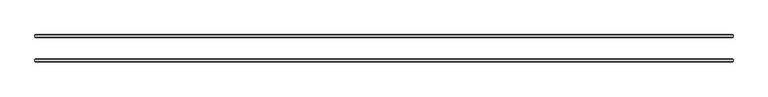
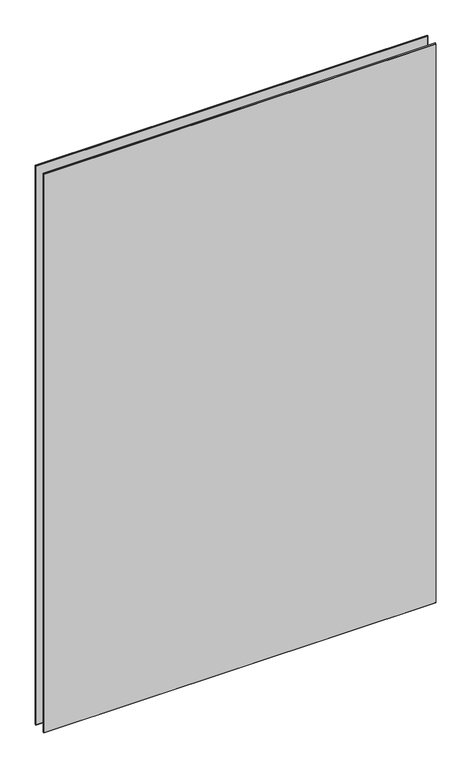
"""IFC4 building model written with IfcOpenShell, lengths in millimetres: plate geometry, 3-AMG-2-Панель двойной витраж 8, 10 : Смещение 32 Толщина 8mm."""

from ifc_helpers import new_model, si_unit, origin, place, context, project, spatial, faceted_brep, source, transform, mapped, element, save


def plate_72723f3e(model_context):
    return source(origin(), model_context, "Body", "Brep", [
        faceted_brep([(916.0188281, -34.4961653, 2751.0), (916.0188281, -29.5038347, 2751.0), (-916.0188281, -29.5038347, 2751.0), (-916.0188281, -34.4961653, 2751.0), (916.0188281, -29.5038347, -7.0), (916.0188281, -34.4961653, -7.0), (-916.0188281, -34.4961653, -7.0), (-916.0188281, -29.5038347, -7.0), (-914.5149934, -28.0, 2749.4961653), (914.5149934, -28.0, 2749.4961653), (914.5149934, -28.0, -5.5039422), (-914.5149934, -28.0, -5.5039422), (914.5149934, -36.0, 2749.4961653), (-914.5149934, -36.0, 2749.4961653), (-914.5149934, -36.0, -5.4961653), (914.5149934, -36.0, -5.4961653)], [[[0, 1, 2, 3]], [[4, 5, 6, 7]], [[8, 9, 10, 11]], [[3, 2, 7, 6]], [[12, 13, 14, 15]], [[1, 0, 5, 4]], [[1, 4, 10, 9]], [[5, 0, 12, 15]], [[0, 3, 13, 12]], [[2, 1, 9, 8]], [[7, 2, 8, 11]], [[3, 6, 14, 13]], [[6, 5, 15, 14]], [[4, 7, 11, 10]]]),
        faceted_brep([(916.0188281, 29.5038347, 2751.0), (916.0188281, 34.4961653, 2751.0), (-916.0188281, 34.4961653, 2751.0), (-916.0188281, 29.5038347, 2751.0), (916.0188281, 34.4961653, -7.0), (916.0188281, 29.5038347, -7.0), (-916.0188281, 29.5038347, -7.0), (-916.0188281, 34.4961653, -7.0), (-914.5149934, 36.0, 2749.4961653), (914.5149934, 36.0, 2749.4961653), (914.5149934, 36.0, -5.5039422), (-914.5149934, 36.0, -5.5039422), (914.5149934, 28.0, 2749.4961653), (-914.5149934, 28.0, 2749.4961653), (-914.5149934, 28.0, -5.4961653), (914.5149934, 28.0, -5.4961653)], [[[0, 1, 2, 3]], [[4, 5, 6, 7]], [[8, 9, 10, 11]], [[3, 2, 7, 6]], [[12, 13, 14, 15]], [[1, 0, 5, 4]], [[1, 4, 10, 9]], [[5, 0, 12, 15]], [[7, 2, 8, 11]], [[3, 6, 14, 13]], [[0, 3, 13, 12]], [[2, 1, 9, 8]], [[6, 5, 15, 14]], [[4, 7, 11, 10]]]),
    ])


if __name__ == "__main__":
    model = new_model("IFC4")
    model_context = context("Model", 3, world=origin())
    ifc_project = project(units=[si_unit("LENGTHUNIT", "METRE", prefix="MILLI")], contexts=[model_context])
    site = spatial("IfcSite", under=ifc_project)
    building = spatial("IfcBuilding", under=site)
    placement = place(None, origin())
    plate_shape = plate_72723f3e(model_context)
    element("IfcPlate", 1, ObjectType="3-AMG-2-Панель двойной витраж 8, 10 : Смещение 32 Толщина 8mm", at=placement, inside=building, context=model_context, shape_type="MappedRepresentation", body=[
        mapped(plate_shape, transform((0.0, 0.0, 0.0), x_axis=(1.0, 0.0, 0.0), y_axis=(0.0, 1.0, 0.0), z_axis=(0.0, 0.0, 1.0))),
    ])
    save(model, "model.ifc")
